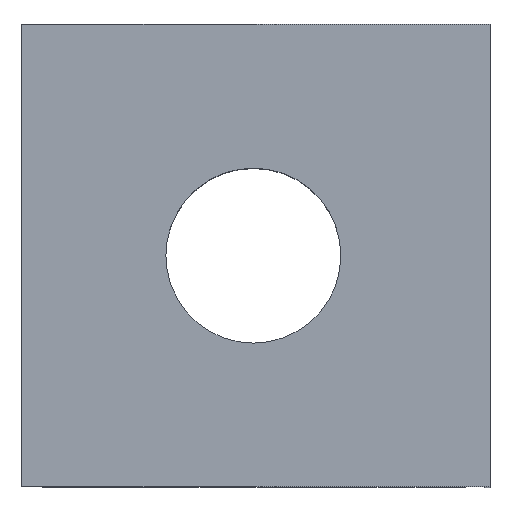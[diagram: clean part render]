
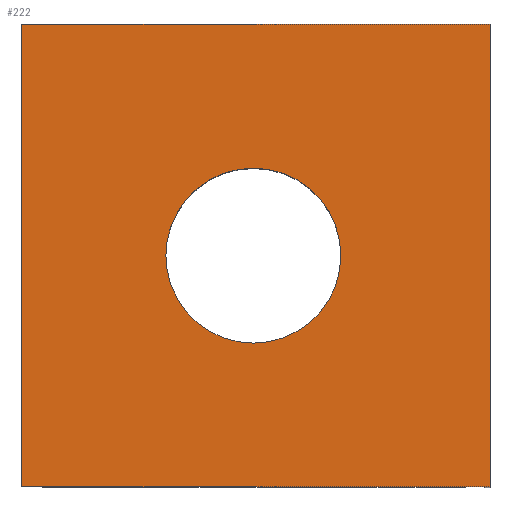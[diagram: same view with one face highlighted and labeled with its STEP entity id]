
A CAD part, top view. The second image highlights one B-rep face of the part: STEP entity #222.
In plain terms, the highlighted planar face has unit normal (0, 0, 1).
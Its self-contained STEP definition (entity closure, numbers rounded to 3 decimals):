
#15=FACE_BOUND('',#55,.T.);
#30=PLANE('',#260);
#42=FACE_OUTER_BOUND('',#54,.T.);
#54=EDGE_LOOP('',(#202,#203,#204,#205));
#55=EDGE_LOOP('',(#206));
#64=LINE('',#337,#81);
#70=LINE('',#478,#87);
#73=LINE('',#488,#90);
#74=LINE('',#490,#91);
#81=VECTOR('',#280,10.);
#87=VECTOR('',#298,10.);
#90=VECTOR('',#309,10.);
#91=VECTOR('',#312,10.);
#97=CIRCLE('',#256,2.459);
#105=VERTEX_POINT('',#334);
#106=VERTEX_POINT('',#336);
#115=VERTEX_POINT('',#476);
#116=VERTEX_POINT('',#480);
#118=VERTEX_POINT('',#486);
#127=EDGE_CURVE('',#105,#106,#64,.T.);
#142=EDGE_CURVE('',#115,#105,#70,.T.);
#143=EDGE_CURVE('',#116,#116,#97,.T.);
#147=EDGE_CURVE('',#115,#118,#73,.T.);
#148=EDGE_CURVE('',#118,#106,#74,.T.);
#202=ORIENTED_EDGE('',*,*,#148,.T.);
#203=ORIENTED_EDGE('',*,*,#127,.F.);
#204=ORIENTED_EDGE('',*,*,#142,.F.);
#205=ORIENTED_EDGE('',*,*,#147,.T.);
#206=ORIENTED_EDGE('',*,*,#143,.T.);
#222=ADVANCED_FACE('',(#42,#15),#30,.T.);
#256=AXIS2_PLACEMENT_3D('',#481,#301,#302);
#260=AXIS2_PLACEMENT_3D('',#491,#313,#314);
#280=DIRECTION('',(0.,-1.,0.));
#298=DIRECTION('',(1.,0.,0.));
#301=DIRECTION('center_axis',(0.,0.,-1.));
#302=DIRECTION('ref_axis',(1.,0.,0.));
#309=DIRECTION('',(0.,-1.,0.));
#312=DIRECTION('',(1.,0.,0.));
#313=DIRECTION('center_axis',(0.,0.,1.));
#314=DIRECTION('ref_axis',(1.,0.,0.));
#334=CARTESIAN_POINT('',(6.65,6.5,5.8));
#336=CARTESIAN_POINT('',(6.65,-6.5,5.8));
#337=CARTESIAN_POINT('',(6.65,6.5,5.8));
#476=CARTESIAN_POINT('',(-6.5,6.5,5.8));
#478=CARTESIAN_POINT('',(6.5,6.5,5.8));
#480=CARTESIAN_POINT('',(-2.459,0.,5.8));
#481=CARTESIAN_POINT('Origin',(0.,0.,5.8));
#486=CARTESIAN_POINT('',(-6.5,-6.5,5.8));
#488=CARTESIAN_POINT('',(-6.5,6.5,5.8));
#490=CARTESIAN_POINT('',(-6.5,-6.5,5.8));
#491=CARTESIAN_POINT('Origin',(0.,0.,5.8));
